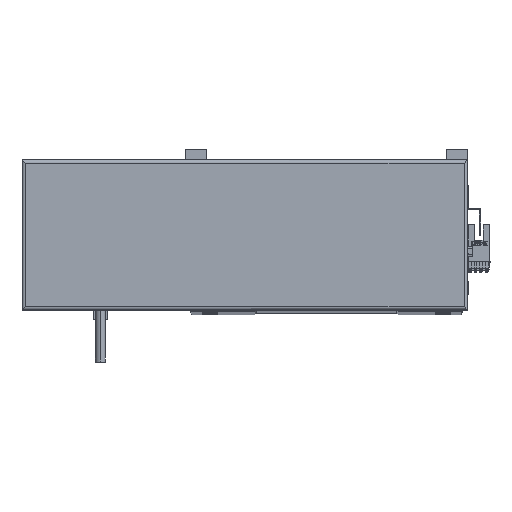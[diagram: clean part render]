
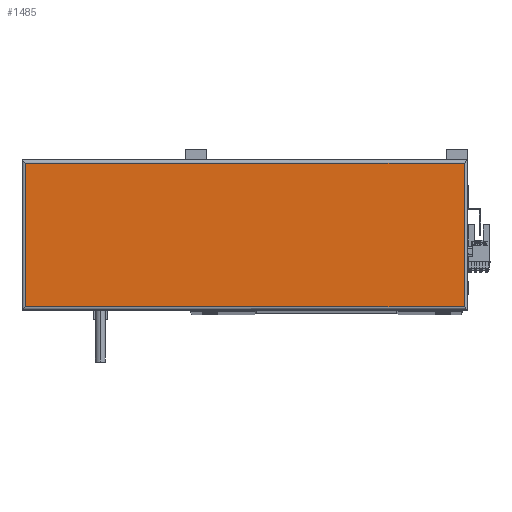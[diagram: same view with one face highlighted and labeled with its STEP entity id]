
A CAD part, top view. The second image highlights one B-rep face of the part: STEP entity #1485.
In plain terms, the highlighted planar face has unit normal (0, 0, 1).
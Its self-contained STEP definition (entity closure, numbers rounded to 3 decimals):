
#449 = DIRECTION ( 'NONE',  ( 0., 0., 1. ) ) ;
#1200 = DIRECTION ( 'NONE',  ( 0., 1., 0. ) ) ;
#1485 = ADVANCED_FACE ( 'NONE', ( #1551 ), #40778, .T. ) ;
#1551 = FACE_OUTER_BOUND ( 'NONE', #36575, .T. ) ;
#2117 = AXIS2_PLACEMENT_3D ( 'NONE', #45902, #449, #3904 ) ;
#3904 = DIRECTION ( 'NONE',  ( 1., 0., 0. ) ) ;
#5644 = LINE ( 'NONE', #17245, #19816 ) ;
#9733 = LINE ( 'NONE', #16371, #43918 ) ;
#9748 = EDGE_CURVE ( 'NONE', #20972, #25619, #5644, .T. ) ;
#10645 = ORIENTED_EDGE ( 'NONE', *, *, #21145, .T. ) ;
#12299 = CARTESIAN_POINT ( 'NONE',  ( 265., 88., 44.8 ) ) ;
#16371 = CARTESIAN_POINT ( 'NONE',  ( 0., 88., 44.8 ) ) ;
#17245 = CARTESIAN_POINT ( 'NONE',  ( 267., 2., 44.8 ) ) ;
#19816 = VECTOR ( 'NONE', #32332, 1000. ) ;
#20319 = CARTESIAN_POINT ( 'NONE',  ( 265., 90., 44.8 ) ) ;
#20775 = ORIENTED_EDGE ( 'NONE', *, *, #31817, .T. ) ;
#20972 = VERTEX_POINT ( 'NONE', #26817 ) ;
#21145 = EDGE_CURVE ( 'NONE', #45250, #31636, #9733, .T. ) ;
#23327 = CARTESIAN_POINT ( 'NONE',  ( 2., 88., 44.8 ) ) ;
#25566 = CARTESIAN_POINT ( 'NONE',  ( 2., 0., 44.8 ) ) ;
#25619 = VERTEX_POINT ( 'NONE', #38687 ) ;
#25857 = EDGE_CURVE ( 'NONE', #31636, #20972, #26327, .T. ) ;
#26327 = LINE ( 'NONE', #25566, #39944 ) ;
#26817 = CARTESIAN_POINT ( 'NONE',  ( 2., 2., 44.8 ) ) ;
#31636 = VERTEX_POINT ( 'NONE', #23327 ) ;
#31817 = EDGE_CURVE ( 'NONE', #25619, #45250, #47290, .T. ) ;
#32332 = DIRECTION ( 'NONE',  ( 1., 0., 0. ) ) ;
#33353 = DIRECTION ( 'NONE',  ( 0., -1., 0. ) ) ;
#35341 = ORIENTED_EDGE ( 'NONE', *, *, #25857, .T. ) ;
#35449 = DIRECTION ( 'NONE',  ( -1., 0., 0. ) ) ;
#36575 = EDGE_LOOP ( 'NONE', ( #20775, #10645, #35341, #48601 ) ) ;
#38687 = CARTESIAN_POINT ( 'NONE',  ( 265., 2., 44.8 ) ) ;
#39944 = VECTOR ( 'NONE', #33353, 1000. ) ;
#40778 = PLANE ( 'NONE',  #2117 ) ;
#43747 = VECTOR ( 'NONE', #1200, 1000. ) ;
#43918 = VECTOR ( 'NONE', #35449, 1000. ) ;
#45250 = VERTEX_POINT ( 'NONE', #12299 ) ;
#45902 = CARTESIAN_POINT ( 'NONE',  ( 133.5, 45., 44.8 ) ) ;
#47290 = LINE ( 'NONE', #20319, #43747 ) ;
#48601 = ORIENTED_EDGE ( 'NONE', *, *, #9748, .T. ) ;
